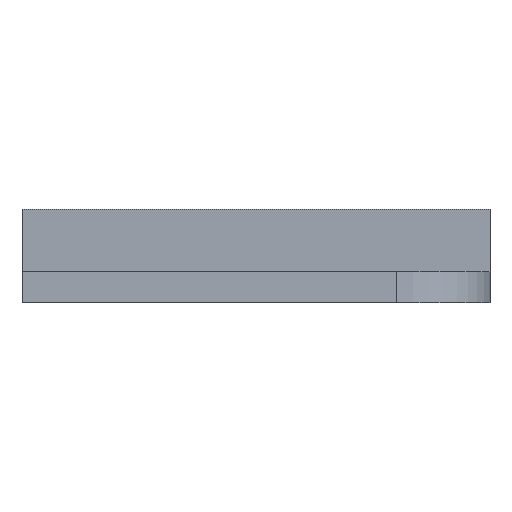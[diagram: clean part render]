
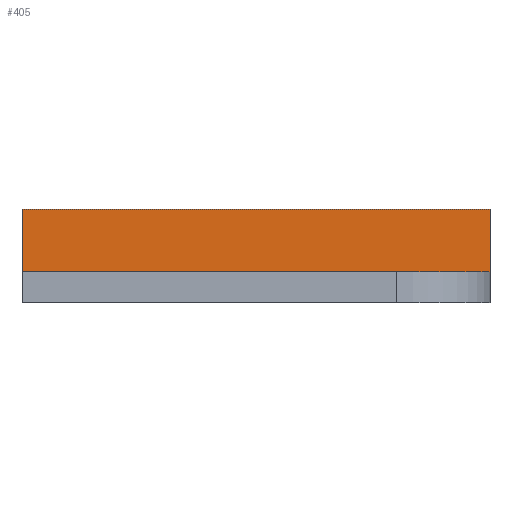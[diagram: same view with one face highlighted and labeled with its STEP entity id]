
A CAD part, front view. The second image highlights one B-rep face of the part: STEP entity #405.
In plain terms, the highlighted planar face has unit normal (0, -1, 0).
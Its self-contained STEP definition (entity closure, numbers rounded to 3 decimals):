
#138 = VERTEX_POINT('',#139);
#139 = CARTESIAN_POINT('',(205.,101.5,210.5));
#145 = EDGE_CURVE('',#138,#146,#148,.T.);
#146 = VERTEX_POINT('',#147);
#147 = CARTESIAN_POINT('',(205.,101.5,212.5));
#148 = LINE('',#149,#150);
#149 = CARTESIAN_POINT('',(205.,101.5,210.5));
#150 = VECTOR('',#151,1.);
#151 = DIRECTION('',(0.,0.,1.));
#306 = VERTEX_POINT('',#307);
#307 = CARTESIAN_POINT('',(220.,101.5,210.5));
#317 = VERTEX_POINT('',#318);
#318 = CARTESIAN_POINT('',(220.,101.5,212.5));
#324 = EDGE_CURVE('',#306,#317,#325,.T.);
#325 = LINE('',#326,#327);
#326 = CARTESIAN_POINT('',(220.,101.5,210.5));
#327 = VECTOR('',#328,1.);
#328 = DIRECTION('',(0.,0.,1.));
#389 = EDGE_CURVE('',#138,#306,#390,.T.);
#390 = LINE('',#391,#392);
#391 = CARTESIAN_POINT('',(205.,101.5,210.5));
#392 = VECTOR('',#393,1.);
#393 = DIRECTION('',(1.,0.,0.));
#405 = ADVANCED_FACE('',(#406),#417,.F.);
#406 = FACE_BOUND('',#407,.F.);
#407 = EDGE_LOOP('',(#408,#409,#410,#416));
#408 = ORIENTED_EDGE('',*,*,#389,.F.);
#409 = ORIENTED_EDGE('',*,*,#145,.T.);
#410 = ORIENTED_EDGE('',*,*,#411,.T.);
#411 = EDGE_CURVE('',#146,#317,#412,.T.);
#412 = LINE('',#413,#414);
#413 = CARTESIAN_POINT('',(205.,101.5,212.5));
#414 = VECTOR('',#415,1.);
#415 = DIRECTION('',(1.,0.,0.));
#416 = ORIENTED_EDGE('',*,*,#324,.F.);
#417 = PLANE('',#418);
#418 = AXIS2_PLACEMENT_3D('',#419,#420,#421);
#419 = CARTESIAN_POINT('',(205.,101.5,210.5));
#420 = DIRECTION('',(0.,1.,0.));
#421 = DIRECTION('',(0.,0.,1.));
